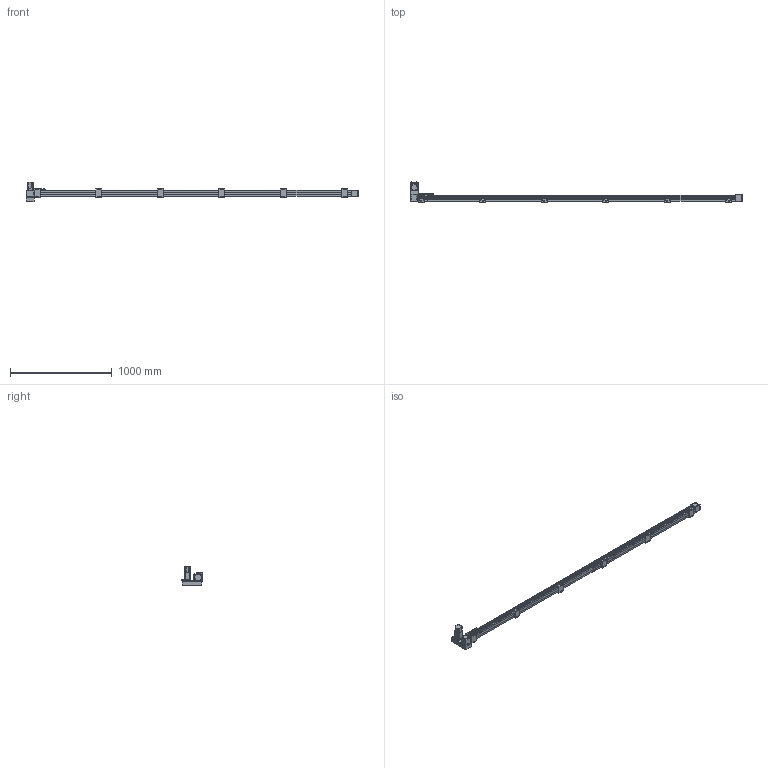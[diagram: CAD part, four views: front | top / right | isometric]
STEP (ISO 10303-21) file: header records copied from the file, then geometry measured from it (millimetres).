
FILE_DESCRIPTION(/* description */ ('STEP AP214'),/* implementation_level */ '2;1');
FILE_NAME(/* name */ 'SK60-P13-S2950-LU-T40-C1-N(0)',/* time_stamp */ '2023-04-06T04:49:08+02:00',/* author */ ('License CC BY-ND 4.0'),/* organization */ ('CADENAS'),/* preprocessor_version */ 'ST-DEVELOPER v19.3',/* originating_system */ 'PARTsolutions',/* authorisation */ ' ');
FILE_SCHEMA (('AUTOMOTIVE_DESIGN {1 0 10303 214 3 1 1}'));
Length unit declared in the file: millimetre
Products named in the file (10): SK60-P13-S2950-LU-T40-C1-N(0); PSC140-sensor; SK60-S450_seat; SK60-S450-BL-C1_slider; SK60_body3; SK60_body6; SK60-BL_body2; T40-p1; SK60-LU_fb; SK60-S2950-LU-C1_body
Assembly tree (20 placements, depth 2):
  SK60-P13-S2950-LU-T40-C1-N(0)
    PSC140-sensor  x3
    SK60-S450_seat  x6
    SK60-S450-BL-C1_slider
    SK60_body3  x3
    SK60_body6  x2
    SK60-BL_body2  x2
    T40-p1
    SK60-LU_fb
    SK60-S2950-LU-C1_body
Bounding box: 3255.5 x 201 x 189.7 mm (x, y, z)
Volume: 12228159.8 mm3; surface area: 1425853.9 mm2
Topology: 20 solids, 20 shells, 986 faces, 2440 edges, 1605 vertices
Faces by surface type: plane 620, cylinder 326, cone 38, torus 2
Full cylindrical faces by diameter (mm): 2.8 x3, 3.3 x4, 4 x2, 4.5 x30, 4.6 x3, 4.917 x32, 5 x6, 5.478 x4, 5.5 x35, 6.5 x12, 7 x2, 8 x4, 8.5 x4, 9.988 x4, 10 x24, 14 x1, 47 x3, 50 x2
Entity records: 18687 total; most frequent: DIRECTION 3192, CARTESIAN_POINT 3154, ORIENTED_EDGE 2940, EDGE_CURVE 1470, AXIS2_PLACEMENT_3D 1072, LINE 1048, VECTOR 1048, VERTEX_POINT 1034
